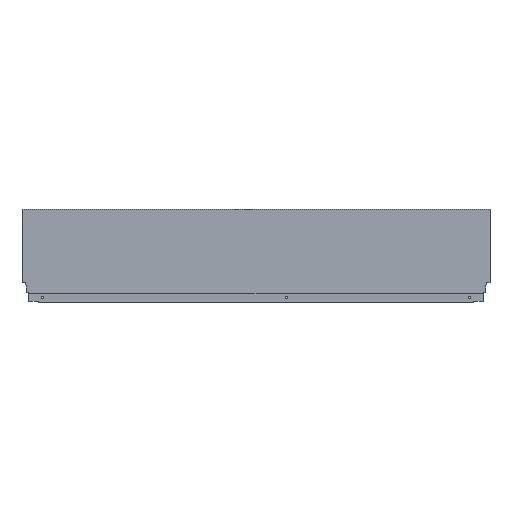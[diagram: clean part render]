
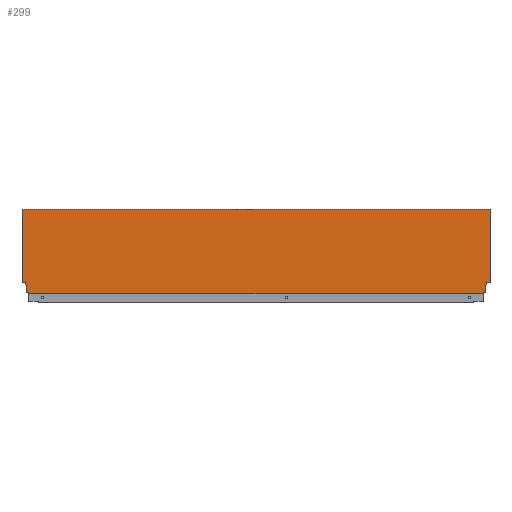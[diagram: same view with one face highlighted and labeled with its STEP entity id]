
A CAD part, top view. The second image highlights one B-rep face of the part: STEP entity #299.
In plain terms, the highlighted planar face has unit normal (0, 0, 1).
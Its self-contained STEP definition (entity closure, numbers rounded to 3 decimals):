
#189 = LINE ( 'NONE', #1230, #212 ) ;
#191 = VECTOR ( 'NONE', #910, 1000. ) ;
#194 = LINE ( 'NONE', #1015, #195 ) ;
#195 = VECTOR ( 'NONE', #1229, 1000. ) ;
#197 = LINE ( 'NONE', #911, #191 ) ;
#198 = LINE ( 'NONE', #1182, #199 ) ;
#199 = VECTOR ( 'NONE', #1180, 1000. ) ;
#202 = LINE ( 'NONE', #1184, #203 ) ;
#203 = VECTOR ( 'NONE', #1183, 1000. ) ;
#204 = LINE ( 'NONE', #1177, #205 ) ;
#205 = VECTOR ( 'NONE', #1176, 1000. ) ;
#206 = LINE ( 'NONE', #1173, #207 ) ;
#207 = VECTOR ( 'NONE', #1174, 1000. ) ;
#208 = LINE ( 'NONE', #1175, #209 ) ;
#209 = VECTOR ( 'NONE', #1376, 1000. ) ;
#210 = LINE ( 'NONE', #1319, #211 ) ;
#211 = VECTOR ( 'NONE', #1322, 1000. ) ;
#212 = VECTOR ( 'NONE', #1339, 1000. ) ;
#214 = LINE ( 'NONE', #1335, #215 ) ;
#215 = VECTOR ( 'NONE', #1333, 1000. ) ;
#216 = LINE ( 'NONE', #1172, #217 ) ;
#217 = VECTOR ( 'NONE', #1178, 1000. ) ;
#218 = LINE ( 'NONE', #1395, #219 ) ;
#219 = VECTOR ( 'NONE', #1167, 1000. ) ;
#220 = LINE ( 'NONE', #1343, #221 ) ;
#221 = VECTOR ( 'NONE', #1312, 1000. ) ;
#222 = LINE ( 'NONE', #1314, #223 ) ;
#223 = VECTOR ( 'NONE', #803, 1000. ) ;
#299 = ADVANCED_FACE ( 'NONE', ( #573 ), #999, .T. ) ;
#466 = EDGE_CURVE ( 'NONE', #1129, #1401, #194, .T. ) ;
#468 = EDGE_CURVE ( 'NONE', #959, #1405, #198, .T. ) ;
#470 = EDGE_CURVE ( 'NONE', #1405, #1370, #202, .T. ) ;
#471 = EDGE_CURVE ( 'NONE', #1401, #959, #204, .T. ) ;
#472 = EDGE_CURVE ( 'NONE', #1370, #1109, #206, .T. ) ;
#473 = EDGE_CURVE ( 'NONE', #1109, #1391, #208, .T. ) ;
#474 = EDGE_CURVE ( 'NONE', #1129, #1133, #210, .T. ) ;
#475 = EDGE_CURVE ( 'NONE', #1391, #1371, #189, .T. ) ;
#476 = EDGE_CURVE ( 'NONE', #1151, #926, #214, .T. ) ;
#477 = EDGE_CURVE ( 'NONE', #926, #1170, #216, .T. ) ;
#478 = EDGE_CURVE ( 'NONE', #1170, #958, #218, .T. ) ;
#479 = EDGE_CURVE ( 'NONE', #958, #1133, #220, .T. ) ;
#480 = EDGE_CURVE ( 'NONE', #1127, #1371, #222, .T. ) ;
#483 = EDGE_CURVE ( 'NONE', #1127, #1151, #197, .T. ) ;
#528 = AXIS2_PLACEMENT_3D ( 'NONE', #1003, #1023, #1025 ) ;
#573 = FACE_OUTER_BOUND ( 'NONE', #1536, .T. ) ;
#630 = ORIENTED_EDGE ( 'NONE', *, *, #478, .F. ) ;
#631 = ORIENTED_EDGE ( 'NONE', *, *, #479, .F. ) ;
#632 = ORIENTED_EDGE ( 'NONE', *, *, #474, .T. ) ;
#636 = ORIENTED_EDGE ( 'NONE', *, *, #477, .F. ) ;
#637 = ORIENTED_EDGE ( 'NONE', *, *, #476, .F. ) ;
#638 = ORIENTED_EDGE ( 'NONE', *, *, #483, .F. ) ;
#639 = ORIENTED_EDGE ( 'NONE', *, *, #480, .T. ) ;
#640 = ORIENTED_EDGE ( 'NONE', *, *, #475, .F. ) ;
#641 = ORIENTED_EDGE ( 'NONE', *, *, #473, .F. ) ;
#642 = ORIENTED_EDGE ( 'NONE', *, *, #472, .F. ) ;
#643 = ORIENTED_EDGE ( 'NONE', *, *, #470, .F. ) ;
#644 = ORIENTED_EDGE ( 'NONE', *, *, #468, .F. ) ;
#645 = ORIENTED_EDGE ( 'NONE', *, *, #471, .F. ) ;
#646 = ORIENTED_EDGE ( 'NONE', *, *, #466, .F. ) ;
#779 = CARTESIAN_POINT ( 'NONE',  ( -13.004, 1.146, 7.5 ) ) ;
#781 = CARTESIAN_POINT ( 'NONE',  ( 0., 164.7, 7.5 ) ) ;
#792 = CARTESIAN_POINT ( 'NONE',  ( -8.9, 10.765, 7.5 ) ) ;
#793 = CARTESIAN_POINT ( 'NONE',  ( -13.004, 0., 7.5 ) ) ;
#803 = DIRECTION ( 'NONE',  ( 1., 0., 0. ) ) ;
#811 = CARTESIAN_POINT ( 'NONE',  ( -901.996, 0., 7.5 ) ) ;
#812 = CARTESIAN_POINT ( 'NONE',  ( -915., 164.7, 7.5 ) ) ;
#814 = CARTESIAN_POINT ( 'NONE',  ( -915., 21.2, 7.5 ) ) ;
#819 = CARTESIAN_POINT ( 'NONE',  ( -8.9, 2.64, 7.5 ) ) ;
#825 = CARTESIAN_POINT ( 'NONE',  ( -906.1, 2.64, 7.5 ) ) ;
#831 = CARTESIAN_POINT ( 'NONE',  ( -7.06, 21.2, 7.5 ) ) ;
#855 = CARTESIAN_POINT ( 'NONE',  ( -907.94, 21.2, 7.5 ) ) ;
#857 = CARTESIAN_POINT ( 'NONE',  ( 0., 21.2, 7.5 ) ) ;
#877 = CARTESIAN_POINT ( 'NONE',  ( -906.1, 10.765, 7.5 ) ) ;
#879 = CARTESIAN_POINT ( 'NONE',  ( -901.996, 1.146, 7.5 ) ) ;
#910 = DIRECTION ( 'NONE',  ( 0., 1., 0. ) ) ;
#911 = CARTESIAN_POINT ( 'NONE',  ( -901.996, 1.146, 7.5 ) ) ;
#926 = VERTEX_POINT ( 'NONE', #825 ) ;
#958 = VERTEX_POINT ( 'NONE', #855 ) ;
#959 = VERTEX_POINT ( 'NONE', #857 ) ;
#999 = PLANE ( 'NONE',  #528 ) ;
#1003 = CARTESIAN_POINT ( 'NONE',  ( -915., 0., 7.5 ) ) ;
#1015 = CARTESIAN_POINT ( 'NONE',  ( -915., 164.7, 7.5 ) ) ;
#1023 = DIRECTION ( 'NONE',  ( 0., 0., 1. ) ) ;
#1025 = DIRECTION ( 'NONE',  ( 1., 0., 0. ) ) ;
#1109 = VERTEX_POINT ( 'NONE', #819 ) ;
#1127 = VERTEX_POINT ( 'NONE', #811 ) ;
#1129 = VERTEX_POINT ( 'NONE', #812 ) ;
#1133 = VERTEX_POINT ( 'NONE', #814 ) ;
#1151 = VERTEX_POINT ( 'NONE', #879 ) ;
#1167 = DIRECTION ( 'NONE',  ( -0.174, 0.985, 0. ) ) ;
#1170 = VERTEX_POINT ( 'NONE', #877 ) ;
#1172 = CARTESIAN_POINT ( 'NONE',  ( -906.1, 10.765, 7.5 ) ) ;
#1173 = CARTESIAN_POINT ( 'NONE',  ( -8.9, 10.765, 7.5 ) ) ;
#1174 = DIRECTION ( 'NONE',  ( 0., -1., 0. ) ) ;
#1175 = CARTESIAN_POINT ( 'NONE',  ( -8.9, 2.64, 7.5 ) ) ;
#1176 = DIRECTION ( 'NONE',  ( 0., -1., 0. ) ) ;
#1177 = CARTESIAN_POINT ( 'NONE',  ( 0., 0., 7.5 ) ) ;
#1178 = DIRECTION ( 'NONE',  ( 0., 1., 0. ) ) ;
#1180 = DIRECTION ( 'NONE',  ( -1., 0., 0. ) ) ;
#1182 = CARTESIAN_POINT ( 'NONE',  ( 0., 21.2, 7.5 ) ) ;
#1183 = DIRECTION ( 'NONE',  ( -0.174, -0.985, 0. ) ) ;
#1184 = CARTESIAN_POINT ( 'NONE',  ( -7.06, 21.2, 7.5 ) ) ;
#1229 = DIRECTION ( 'NONE',  ( 1., 0., 0. ) ) ;
#1230 = CARTESIAN_POINT ( 'NONE',  ( -13.004, 1.146, 7.5 ) ) ;
#1312 = DIRECTION ( 'NONE',  ( -1., 0., 0. ) ) ;
#1314 = CARTESIAN_POINT ( 'NONE',  ( -915., 0., 7.5 ) ) ;
#1319 = CARTESIAN_POINT ( 'NONE',  ( -915., 0., 7.5 ) ) ;
#1322 = DIRECTION ( 'NONE',  ( 0., -1., 0. ) ) ;
#1333 = DIRECTION ( 'NONE',  ( -0.94, 0.342, 0. ) ) ;
#1335 = CARTESIAN_POINT ( 'NONE',  ( -906.1, 2.64, 7.5 ) ) ;
#1339 = DIRECTION ( 'NONE',  ( 0., -1., 0. ) ) ;
#1343 = CARTESIAN_POINT ( 'NONE',  ( -920., 21.2, 7.5 ) ) ;
#1370 = VERTEX_POINT ( 'NONE', #792 ) ;
#1371 = VERTEX_POINT ( 'NONE', #793 ) ;
#1376 = DIRECTION ( 'NONE',  ( -0.94, -0.342, 0. ) ) ;
#1391 = VERTEX_POINT ( 'NONE', #779 ) ;
#1395 = CARTESIAN_POINT ( 'NONE',  ( -907.94, 21.2, 7.5 ) ) ;
#1401 = VERTEX_POINT ( 'NONE', #781 ) ;
#1405 = VERTEX_POINT ( 'NONE', #831 ) ;
#1536 = EDGE_LOOP ( 'NONE', ( #632, #631, #630, #636, #637, #638, #639, #640, #641, #642, #643, #644, #645, #646 ) ) ;
